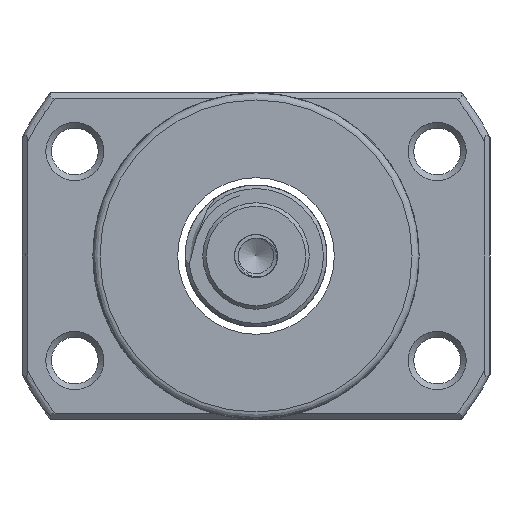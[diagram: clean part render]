
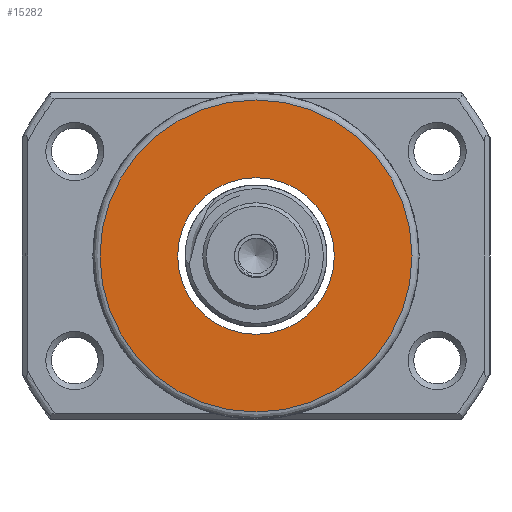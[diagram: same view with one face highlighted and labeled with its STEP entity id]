
A CAD part, left-side view. The second image highlights one B-rep face of the part: STEP entity #15282.
In plain terms, the highlighted planar face has unit normal (-1, 0, 0).
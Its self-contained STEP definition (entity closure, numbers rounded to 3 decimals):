
#556 = EDGE_CURVE ( 'NONE', #859, #859, #15552, .T. ) ;
#859 = VERTEX_POINT ( 'NONE', #19254 ) ;
#1571 = PLANE ( 'NONE',  #9595 ) ;
#4500 = CARTESIAN_POINT ( 'NONE',  ( -53.324, 0., 0. ) ) ;
#6564 = ORIENTED_EDGE ( 'NONE', *, *, #6714, .F. ) ;
#6714 = EDGE_CURVE ( 'NONE', #11913, #11913, #19525, .T. ) ;
#7985 = EDGE_LOOP ( 'NONE', ( #16847 ) ) ;
#8432 = AXIS2_PLACEMENT_3D ( 'NONE', #4500, #10866, #12946 ) ;
#9595 = AXIS2_PLACEMENT_3D ( 'NONE', #10007, #16653, #10286 ) ;
#10007 = CARTESIAN_POINT ( 'NONE',  ( -53.324, 11.05, 0. ) ) ;
#10286 = DIRECTION ( 'NONE',  ( 0., 0., 1. ) ) ;
#10866 = DIRECTION ( 'NONE',  ( -1., 0., 0. ) ) ;
#11913 = VERTEX_POINT ( 'NONE', #14000 ) ;
#12084 = FACE_BOUND ( 'NONE', #12588, .T. ) ;
#12588 = EDGE_LOOP ( 'NONE', ( #6564 ) ) ;
#12946 = DIRECTION ( 'NONE',  ( 0., 0., 1. ) ) ;
#14000 = CARTESIAN_POINT ( 'NONE',  ( -53.324, 0., 11.05 ) ) ;
#15282 = ADVANCED_FACE ( 'NONE', ( #18582, #12084 ), #1571, .T. ) ;
#15552 = CIRCLE ( 'NONE', #16433, 22. ) ;
#16433 = AXIS2_PLACEMENT_3D ( 'NONE', #27102, #21022, #22961 ) ;
#16653 = DIRECTION ( 'NONE',  ( -1., 0., 0. ) ) ;
#16847 = ORIENTED_EDGE ( 'NONE', *, *, #556, .T. ) ;
#18582 = FACE_OUTER_BOUND ( 'NONE', #7985, .T. ) ;
#19254 = CARTESIAN_POINT ( 'NONE',  ( -53.324, 0., 22. ) ) ;
#19525 = CIRCLE ( 'NONE', #8432, 11.05 ) ;
#21022 = DIRECTION ( 'NONE',  ( -1., 0., 0. ) ) ;
#22961 = DIRECTION ( 'NONE',  ( 0., 0., 1. ) ) ;
#27102 = CARTESIAN_POINT ( 'NONE',  ( -53.324, 0., 0. ) ) ;
